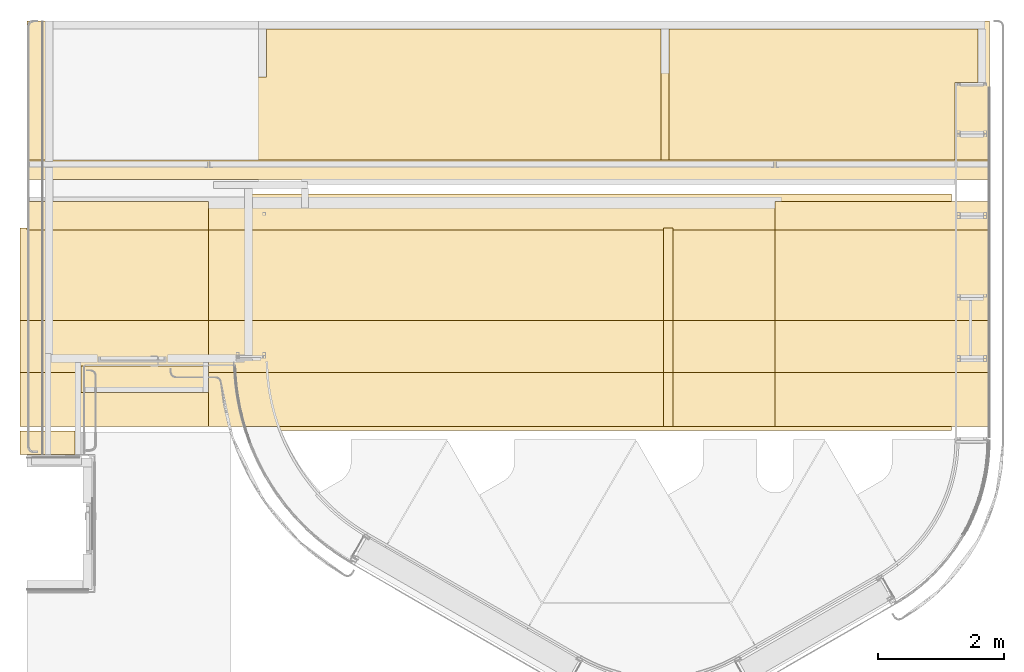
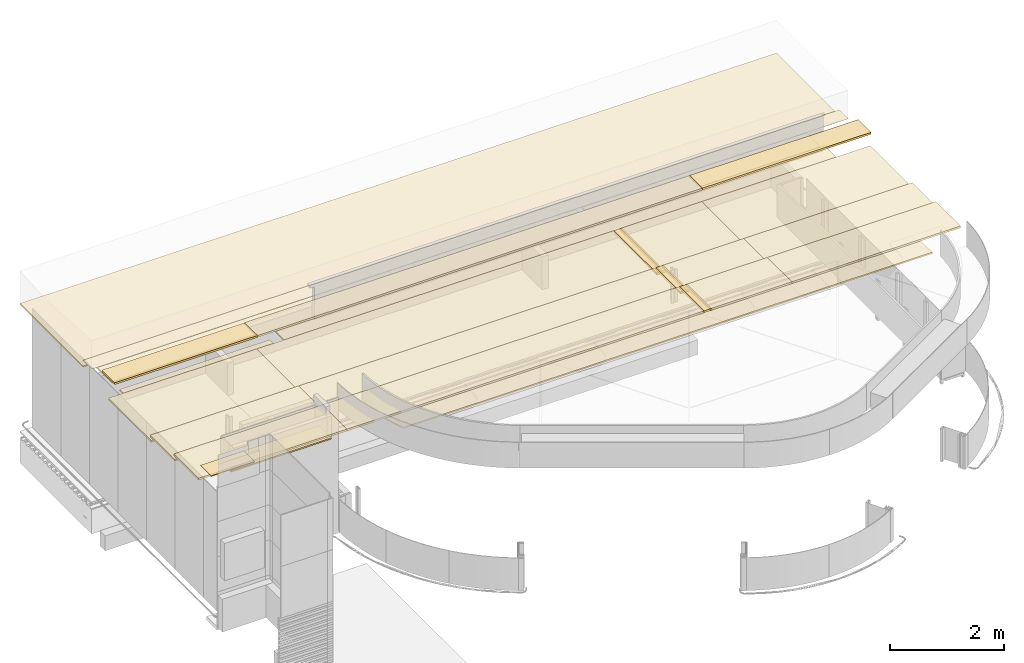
# One storey, part 16 of 18: 22 coverings.
"""IFC2X3 building model written with IfcOpenShell, lengths in millimetres."""

from ifc_helpers import new_model, entity, si_unit, converted_unit, derived_unit, direction, frame, frame_2d, origin_with_axes, place, context, subcontext, project, spatial, polyline, circle_curve, parameter, trimmed, segment, composite_curve, rectangle, outline, extrude, faceted_brep, material, layer, layer_set, layer_usage, type_object, element, save


model = new_model("IFC2X3")

# Units and contexts
model_context = context("Model", 3, precision=0.01, world=frame((0.0, 4.29681676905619e-09, 0.0)), true_north=direction((4.01073788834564e-13, 1.0)))
plan_context = context("Plan", 3, precision=0.01, world=frame((0.0, 4.29681676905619e-09, 0.0)), true_north=direction((4.01073788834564e-13, 1.0)))
body_context = subcontext(model_context, "Body", "Model", "MODEL_VIEW")
ifc_project = project(units=[converted_unit("PLANEANGLEUNIT", "DEGREE", entity("IfcPositiveLengthMeasure", 0.0174532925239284), si_unit("PLANEANGLEUNIT", "RADIAN"), dimensions=[0, 0, 0, 0, 0, 0, 0]), si_unit("AREAUNIT", "SQUARE_METRE"), si_unit("LENGTHUNIT", "METRE", prefix="MILLI"), si_unit("MASSUNIT", "GRAM", prefix="KILO"), si_unit("POWERUNIT", "WATT"), si_unit("PRESSUREUNIT", "PASCAL"), si_unit("FORCEUNIT", "NEWTON", prefix="KILO"), si_unit("ELECTRICVOLTAGEUNIT", "VOLT"), si_unit("ELECTRICCURRENTUNIT", "AMPERE"), si_unit("THERMODYNAMICTEMPERATUREUNIT", "DEGREE_CELSIUS"), si_unit("TIMEUNIT", "SECOND"), si_unit("VOLUMEUNIT", "CUBIC_METRE"), derived_unit("LINEARVELOCITYUNIT", [(si_unit("LENGTHUNIT", "METRE"), 1), (si_unit("TIMEUNIT", "SECOND"), -1)]), derived_unit("VOLUMETRICFLOWRATEUNIT", [(si_unit("VOLUMEUNIT", "CUBIC_METRE"), 1), (si_unit("TIMEUNIT", "SECOND"), -1)]), derived_unit("THERMALTRANSMITTANCEUNIT", [(si_unit("POWERUNIT", "WATT"), 1), (si_unit("THERMODYNAMICTEMPERATUREUNIT", "KELVIN"), -1), (si_unit("AREAUNIT", "SQUARE_METRE"), -1)]), derived_unit("SOUNDPRESSUREUNIT", [(si_unit("PRESSUREUNIT", "PASCAL"), 1)])], contexts=[model_context, plan_context])

# Site, building, storey
site_placement = place(None, origin_with_axes())
site = spatial("IfcSite", under=ifc_project, at=site_placement, Name="ENGM", CompositionType="ELEMENT")
building_placement = place(site_placement, origin_with_axes())
building = spatial("IfcBuilding", under=site, at=building_placement, Name="TH", CompositionType="ELEMENT")
storey_placement = place(building_placement, frame((0.0, 0.0, 210200.0), z_axis=(0.0, 0.0, 1.0), x_axis=(1.0, 0.0, 0.0)))
storey = spatial("IfcBuildingStorey", under=building, at=storey_placement, Name="Nivå F - 0,7 m", CompositionType="ELEMENT", Elevation=210200.0)

# Coverings
ifc_material_1 = material(Name="_NSW Himlingsplate 600x600 mm")
ifc_layer_1 = layer(ifc_material_1, 30.0)
ifc_layer_set_1 = layer_set([ifc_layer_1], Name="Compound Ceiling:A255 - HI-F02")
ifc_layer_usage_1 = layer_usage(ifc_layer_set_1, "AXIS3", "NEGATIVE", 30.0)
covering_type_1 = type_object("IfcCoveringType", Name="Compound Ceiling:A255 - HI-F02", PredefinedType="CEILING")
covering_1_placement = place(storey_placement, origin_with_axes())
element("IfcCovering", 1, at=covering_1_placement, inside=storey, type_object=covering_type_1, material=ifc_layer_usage_1, Name="Compound Ceiling:A255 - HI-F02", ObjectType="Compound Ceiling:A255 - HI-F02", PredefinedType="CEILING", context=body_context, shape_type="SweptSolid", body=[
    extrude(outline(composite_curve([segment(polyline([(-3365.29852497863, -1655.80938144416), (7326.0776646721, -1655.80938144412)]), True, "CONTINUOUS"), segment(polyline([(7326.0776646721, -1655.80938144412), (7326.0776646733, 2108.68624355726)]), True, "CONTINUOUS"), segment(polyline([(7326.0776646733, 2108.68624355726), (-3840.28079932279, 2108.68624355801)]), True, "CONTINUOUS"), segment(polyline([(-3840.28079932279, 2108.68624355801), (-3840.2807993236, -452.876862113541)]), True, "CONTINUOUS"), segment(polyline([(-3840.2807993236, -452.876862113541), (-3606.29520572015, -452.876862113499)]), True, "CONTINUOUS"), segment(trimmed(circle_curve(frame_2d((-427.040533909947, -441.548878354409), x_axis=(1.0, 0.0)), 3179.27485308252), [parameter(180.204149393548)], [parameter(202.453283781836)], True, "PARAMETER"), True, "CONTINUOUS")], self_intersect=False)), frame((902475.9421104, 482502.171194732, 2600.0)), (0.0, 0.0, 1.0), 29.9999999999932),
])
ifc_layer_usage_2 = layer_usage(ifc_layer_set_1, "AXIS3", "NEGATIVE", 30.0)
covering_2_placement = place(storey_placement, origin_with_axes())
element("IfcCovering", 2, at=covering_2_placement, inside=storey, type_object=covering_type_1, material=ifc_layer_usage_2, Name="Compound Ceiling:A255 - HI-F02", ObjectType="Compound Ceiling:A255 - HI-F02", PredefinedType="CEILING", context=body_context, shape_type="SweptSolid", body=[
    extrude(outline(polyline([(-5586.00113129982, -787.585797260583), (688.583710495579, -787.585797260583), (688.583710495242, -25.2367488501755), (813.5837104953, -25.2367488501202), (813.583710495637, -787.585797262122), (4083.83371031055, -787.585797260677), (4083.8337103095, 1600.40834337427), (-5586.00113130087, 1600.40834336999), (-5586.00113129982, -787.585797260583)])), frame((899605.083710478, 486445.064202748, 2400.0), z_axis=(0.0, 0.0, 1.0), x_axis=(-1.0, 0.0, 0.0)), (0.0, 0.0, 1.0), 29.9999999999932),
    extrude(rectangle(XDim=2525.79864750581, YDim=3045.89153581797, at=frame_2d((-2.07933226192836e-10, 0.0), x_axis=(1.0, 0.0))), frame((897044.195768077, 483321.600676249, 2400.0), z_axis=(0.0, 0.0, 1.0), x_axis=(0.0, 1.0, 0.0)), (0.0, 0.0, 1.0), 29.9999999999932),
])
ifc_layer_usage_3 = layer_usage(ifc_layer_set_1, "AXIS3", "NEGATIVE", 30.0)
covering_3_placement = place(storey_placement, origin_with_axes())
element("IfcCovering", 3, at=covering_3_placement, inside=storey, type_object=covering_type_1, material=ifc_layer_usage_3, Name="Compound Ceiling:A255 - HI-F02", ObjectType="Compound Ceiling:A255 - HI-F02", PredefinedType="CEILING", context=body_context, shape_type="SweptSolid", body=[
    extrude(outline(polyline([(-1761.19494726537, -1080.21034498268), (3151.80505273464, -1080.21034498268), (3151.80505273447, 1307.78379564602), (-1390.61010546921, 1307.7837956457), (-1390.6101054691, -227.57345066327), (-1761.19494726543, -227.573450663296), (-1761.19494726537, -1080.21034498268)])), frame((908467.889894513, 486152.439655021, 2400.0), z_axis=(0.0, 0.0, 1.0), x_axis=(-1.0, 0.0, 0.0)), (0.0, 0.0, 1.0), 29.9999999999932),
])
ifc_layer_2 = layer(ifc_material_1, 30.0)
ifc_layer_set_2 = layer_set([ifc_layer_2], Name="Compound Ceiling:A255 - eksisterende himling perfo. metall kassetter 600x600")
ifc_layer_usage_4 = layer_usage(ifc_layer_set_2, "AXIS3", "NEGATIVE", 30.0)
covering_type_2 = type_object("IfcCoveringType", Name="Compound Ceiling:A255 - eksisterende himling perfo. metall kassetter 600x600", PredefinedType="CEILING")
covering_4_placement = place(storey_placement, origin_with_axes())
element("IfcCovering", 4, at=covering_4_placement, inside=storey, type_object=covering_type_2, material=ifc_layer_usage_4, Name="Compound Ceiling:A255 - eksisterende himling perfo. metall kassetter 600x600", ObjectType="Compound Ceiling:A255 - eksisterende himling perfo. metall kassetter 600x600", PredefinedType="CEILING", context=body_context, shape_type="SweptSolid", body=[
    extrude(rectangle(XDim=427.696977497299, YDim=2028.74999983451, at=frame_2d((-3.46460637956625e-11, 0.0), x_axis=(1.0, 0.0))), frame((896985.625000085, 481663.852863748, 2400.0), z_axis=(0.0, 0.0, 1.0), x_axis=(0.0, -1.0, 0.0)), (0.0, 0.0, 1.0), 29.9999999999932),
])
ifc_material_2 = material(Name="T2_Gips Standard")
ifc_layer_3 = layer(ifc_material_2, 12.5)
ifc_layer_set_3 = layer_set([ifc_layer_3], Name="Compound Ceiling:A255 - Eksisterende - Gips - 12.5 mm")
ifc_layer_usage_5 = layer_usage(ifc_layer_set_3, "AXIS3", "NEGATIVE", 12.5)
covering_type_3 = type_object("IfcCoveringType", Name="Compound Ceiling:A255 - Eksisterende - Gips - 12.5 mm", PredefinedType="CEILING")
covering_5_placement = place(storey_placement, origin_with_axes())
element("IfcCovering", 5, at=covering_5_placement, inside=storey, type_object=covering_type_3, material=ifc_layer_usage_5, Name="Compound Ceiling:A255 - Eksisterende - Gips - 12.5 mm", ObjectType="Compound Ceiling:A255 - Eksisterende - Gips - 12.5 mm", PredefinedType="CEILING", context=body_context, shape_type="SweptSolid", body=[
    extrude(rectangle(XDim=376.000469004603, YDim=876.312500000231, at=frame_2d((3.46460637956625e-11, 1.3858425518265e-10), x_axis=(1.0, 0.0))), frame((895439.156250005, 480652.999765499, 3250.0), z_axis=(0.0, 0.0, 1.0), x_axis=(0.0, -1.0, 0.0)), (0.0, 0.0, 1.0), 12.5000000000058),
])
ifc_material_3 = material(Name="_NSW Himlingsplate 600mm")
ifc_layer_4 = layer(ifc_material_3, 40.0)
ifc_layer_set_4 = layer_set([ifc_layer_4], Name="Compound Ceiling:A255 - eksisterende himling perfo. metall kassetter 600mm pir-nivåF")
ifc_layer_usage_6 = layer_usage(ifc_layer_set_4, "AXIS3", "NEGATIVE", 40.0)
covering_type_4 = type_object("IfcCoveringType", Name="Compound Ceiling:A255 - eksisterende himling perfo. metall kassetter 600mm pir-nivåF", PredefinedType="CEILING")
covering_6_placement = place(storey_placement, origin_with_axes())
element("IfcCovering", 6, at=covering_6_placement, inside=storey, type_object=covering_type_4, material=ifc_layer_usage_6, Name="Compound Ceiling:A255 - eksisterende himling perfo. metall kassetter 600mm pir-nivåF", ObjectType="Compound Ceiling:A255 - eksisterende himling perfo. metall kassetter 600mm pir-nivåF", PredefinedType="CEILING", context=body_context, shape_type="SweptSolid", body=[
    extrude(rectangle(XDim=2999.99999999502, YDim=1500.00000000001, at=frame_2d((-6.93489710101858e-11, 0.0), x_axis=(1.0, 0.0))), frame((896500.000000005, 483319.999999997, 2700.0)), (0.0, 0.0, 1.0), 39.9999999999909),
])
ifc_layer_usage_7 = layer_usage(ifc_layer_set_4, "AXIS3", "NEGATIVE", 40.0)
covering_7_placement = place(storey_placement, origin_with_axes())
element("IfcCovering", 7, at=covering_7_placement, inside=storey, type_object=covering_type_4, material=ifc_layer_usage_7, Name="Compound Ceiling:A255 - eksisterende himling perfo. metall kassetter 600mm pir-nivåF", ObjectType="Compound Ceiling:A255 - eksisterende himling perfo. metall kassetter 600mm pir-nivåF", PredefinedType="CEILING", context=body_context, shape_type="SweptSolid", body=[
    extrude(rectangle(XDim=2999.99999999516, YDim=860.000000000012, at=frame_2d((-6.93489710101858e-11, 0.0), x_axis=(1.0, 0.0))), frame((896500.000000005, 482169.999999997, 2800.0)), (0.0, 0.0, 1.0), 39.9999999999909),
])
ifc_layer_usage_8 = layer_usage(ifc_layer_set_4, "AXIS3", "NEGATIVE", 40.0)
covering_8_placement = place(storey_placement, origin_with_axes())
element("IfcCovering", 8, at=covering_8_placement, inside=storey, type_object=covering_type_4, material=ifc_layer_usage_8, Name="Compound Ceiling:A255 - eksisterende himling perfo. metall kassetter 600mm pir-nivåF", ObjectType="Compound Ceiling:A255 - eksisterende himling perfo. metall kassetter 600mm pir-nivåF", PredefinedType="CEILING", context=body_context, shape_type="SweptSolid", body=[
    extrude(rectangle(XDim=2999.99999999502, YDim=860.000000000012, at=frame_2d((-1.3858425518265e-10, 6.93205493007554e-11), x_axis=(1.0, 0.0))), frame((896500.000000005, 481339.999999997, 2900.0)), (0.0, 0.0, 1.0), 39.9999999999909),
])
ifc_layer_usage_9 = layer_usage(ifc_layer_set_4, "AXIS3", "NEGATIVE", 40.0)
covering_9_placement = place(storey_placement, origin_with_axes())
element("IfcCovering", 9, at=covering_9_placement, inside=storey, type_object=covering_type_4, material=ifc_layer_usage_9, Name="Compound Ceiling:A255 - eksisterende himling perfo. metall kassetter 600mm pir-nivåF", ObjectType="Compound Ceiling:A255 - eksisterende himling perfo. metall kassetter 600mm pir-nivåF", PredefinedType="CEILING", context=body_context, shape_type="SweptSolid", body=[
    extrude(rectangle(XDim=7224.9999999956, YDim=1500.00000000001, at=frame_2d((-1.38697942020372e-10, 0.0), x_axis=(1.0, 0.0))), frame((901612.500000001, 483320.000000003, 2700.0), z_axis=(0.0, 0.0, 1.0), x_axis=(-1.0, 0.0, 0.0)), (0.0, 0.0, 1.0), 39.9999999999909),
    extrude(rectangle(XDim=1650.39444423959, YDim=1500.00000000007, at=frame_2d((-1.3858425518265e-10, 0.0), x_axis=(1.0, 0.0))), frame((906174.802777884, 483320.000000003, 2700.0)), (0.0, 0.0, 1.0), 39.9999999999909),
])
ifc_layer_usage_10 = layer_usage(ifc_layer_set_4, "AXIS3", "NEGATIVE", 40.0)
covering_10_placement = place(storey_placement, origin_with_axes())
element("IfcCovering", 10, at=covering_10_placement, inside=storey, type_object=covering_type_4, material=ifc_layer_usage_10, Name="Compound Ceiling:A255 - eksisterende himling perfo. metall kassetter 600mm pir-nivåF", ObjectType="Compound Ceiling:A255 - eksisterende himling perfo. metall kassetter 600mm pir-nivåF", PredefinedType="CEILING", context=body_context, shape_type="SweptSolid", body=[
    extrude(rectangle(XDim=7224.99999999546, YDim=860.000000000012, at=frame_2d((6.93489710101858e-11, 0.0), x_axis=(1.0, 0.0))), frame((901612.500000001, 482170.000000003, 2800.0), z_axis=(0.0, 0.0, 1.0), x_axis=(-1.0, 0.0, 0.0)), (0.0, 0.0, 1.0), 39.9999999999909),
    extrude(rectangle(XDim=1650.39444423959, YDim=860.000000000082, at=frame_2d((-1.3858425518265e-10, 0.0), x_axis=(1.0, 0.0))), frame((906174.802777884, 482170.000000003, 2800.0)), (0.0, 0.0, 1.0), 39.9999999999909),
])
ifc_layer_usage_11 = layer_usage(ifc_layer_set_4, "AXIS3", "NEGATIVE", 40.0)
covering_11_placement = place(storey_placement, origin_with_axes())
element("IfcCovering", 11, at=covering_11_placement, inside=storey, type_object=covering_type_4, material=ifc_layer_usage_11, Name="Compound Ceiling:A255 - eksisterende himling perfo. metall kassetter 600mm pir-nivåF", ObjectType="Compound Ceiling:A255 - eksisterende himling perfo. metall kassetter 600mm pir-nivåF", PredefinedType="CEILING", context=body_context, shape_type="SweptSolid", body=[
    extrude(rectangle(XDim=7224.99999999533, YDim=860.000000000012, at=frame_2d((1.38470568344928e-10, 0.0), x_axis=(1.0, 0.0))), frame((901612.500000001, 481340.000000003, 2900.0), z_axis=(0.0, 0.0, 1.0), x_axis=(-1.0, 0.0, 0.0)), (0.0, 0.0, 1.0), 39.9999999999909),
    extrude(rectangle(XDim=1650.39444423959, YDim=860.000000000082, at=frame_2d((0.0, -6.9292127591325e-11), x_axis=(1.0, 0.0))), frame((906174.802777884, 481340.000000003, 2900.0)), (0.0, 0.0, 1.0), 39.9999999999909),
])
ifc_layer_usage_12 = layer_usage(ifc_layer_set_4, "AXIS3", "NEGATIVE", 40.0)
covering_12_placement = place(storey_placement, origin_with_axes())
element("IfcCovering", 12, at=covering_12_placement, inside=storey, type_object=covering_type_4, material=ifc_layer_usage_12, Name="Compound Ceiling:A255 - eksisterende himling perfo. metall kassetter 600mm pir-nivåF", ObjectType="Compound Ceiling:A255 - eksisterende himling perfo. metall kassetter 600mm pir-nivåF", PredefinedType="CEILING", context=body_context, shape_type="SweptSolid", body=[
    extrude(rectangle(XDim=8999.99999999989, YDim=450.000000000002, at=frame_2d((6.9576344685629e-11, 3.46460637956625e-11), x_axis=(1.0, 0.0))), frame((902500.000000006, 484264.999999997, 3005.0)), (0.0, 0.0, 1.0), 39.9999999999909),
])
ifc_layer_usage_13 = layer_usage(ifc_layer_set_4, "AXIS3", "NEGATIVE", 40.0)
covering_13_placement = place(storey_placement, origin_with_axes())
element("IfcCovering", 13, at=covering_13_placement, inside=storey, type_object=covering_type_4, material=ifc_layer_usage_13, Name="Compound Ceiling:A255 - eksisterende himling perfo. metall kassetter 600mm pir-nivåF", ObjectType="Compound Ceiling:A255 - eksisterende himling perfo. metall kassetter 600mm pir-nivåF", PredefinedType="CEILING", context=body_context, shape_type="SweptSolid", body=[
    extrude(rectangle(XDim=154.999999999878, YDim=1500.00000000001, at=frame_2d((6.93063384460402e-11, 6.93489710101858e-11), x_axis=(1.0, 0.0))), frame((905302.499999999, 483320.000000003, 2700.0)), (0.0, 0.0, 1.0), 39.9999999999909),
])
ifc_layer_usage_14 = layer_usage(ifc_layer_set_4, "AXIS3", "NEGATIVE", 40.0)
covering_14_placement = place(storey_placement, origin_with_axes())
element("IfcCovering", 14, at=covering_14_placement, inside=storey, type_object=covering_type_4, material=ifc_layer_usage_14, Name="Compound Ceiling:A255 - eksisterende himling perfo. metall kassetter 600mm pir-nivåF", ObjectType="Compound Ceiling:A255 - eksisterende himling perfo. metall kassetter 600mm pir-nivåF", PredefinedType="CEILING", context=body_context, shape_type="SweptSolid", body=[
    extrude(rectangle(XDim=154.99999999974, YDim=860.000000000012, at=frame_2d((0.0, 6.93205493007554e-11), x_axis=(1.0, 0.0))), frame((905302.499999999, 482170.000000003, 2800.0)), (0.0, 0.0, 1.0), 39.9999999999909),
])
ifc_layer_usage_15 = layer_usage(ifc_layer_set_4, "AXIS3", "NEGATIVE", 40.0)
covering_15_placement = place(storey_placement, origin_with_axes())
element("IfcCovering", 15, at=covering_15_placement, inside=storey, type_object=covering_type_4, material=ifc_layer_usage_15, Name="Compound Ceiling:A255 - eksisterende himling perfo. metall kassetter 600mm pir-nivåF", ObjectType="Compound Ceiling:A255 - eksisterende himling perfo. metall kassetter 600mm pir-nivåF", PredefinedType="CEILING", context=body_context, shape_type="SweptSolid", body=[
    extrude(rectangle(XDim=155.000000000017, YDim=860.000000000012, at=frame_2d((-1.3861267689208e-10, 0.0), x_axis=(1.0, 0.0))), frame((905302.499999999, 481340.000000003, 2900.0)), (0.0, 0.0, 1.0), 39.9999999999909),
])
covering_16_placement = place(storey_placement, origin_with_axes())
element("IfcCovering", 16, at=covering_16_placement, inside=storey, type_object=covering_type_4, Name="Compound Ceiling:A255 - eksisterende himling perfo. metall kassetter 600mm pir-nivåF", ObjectType="Compound Ceiling:A255 - eksisterende himling perfo. metall kassetter 600mm pir-nivåF", PredefinedType="CEILING", context=body_context, shape_type="Brep", body=[
    faceted_brep([(895111.906168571, 484039.999999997, 3005.0), (895111.906168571, 484039.999999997, 3044.99999999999), (898000.000000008, 484039.999999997, 3044.99999999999), (898000.000000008, 484039.999999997, 3005.0), (898000.000000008, 484489.999999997, 3044.99999999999), (898000.000000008, 484489.999999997, 3005.0), (895111.906168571, 484489.999999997, 3044.99999999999), (895111.906168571, 484489.999999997, 3005.0)], [[[0, 1, 2, 3]], [[3, 2, 4, 5]], [[6, 7, 5, 4]], [[7, 0, 3, 5]], [[1, 6, 4, 2]], [[7, 6, 1, 0]]], orient=[[False], [False], [False], [False], [False], [False]]),
])
covering_17_placement = place(storey_placement, origin_with_axes())
element("IfcCovering", 17, at=covering_17_placement, inside=storey, type_object=covering_type_4, Name="Compound Ceiling:A255 - eksisterende himling perfo. metall kassetter 600mm pir-nivåF", ObjectType="Compound Ceiling:A255 - eksisterende himling perfo. metall kassetter 600mm pir-nivåF", PredefinedType="CEILING", context=body_context, shape_type="Brep", body=[
    faceted_brep([(907000.000000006, 484489.999999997, 3005.0), (907000.000000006, 484489.999999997, 3044.99999999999), (907000.000000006, 484039.999999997, 3044.99999999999), (907000.000000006, 484039.999999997, 3005.0), (910410.5848418, 484039.999999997, 3044.99999999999), (910410.5848418, 484039.999999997, 3005.0), (910410.5848418, 484489.999999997, 3005.0), (910410.5848418, 484489.999999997, 3044.99999999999)], [[[0, 1, 2, 3]], [[4, 5, 3, 2]], [[6, 7, 1, 0]], [[5, 6, 0, 3]], [[7, 4, 2, 1]], [[7, 6, 5, 4]]], orient=[[False], [False], [False], [False], [False], [False]]),
])
covering_18_placement = place(storey_placement, origin_with_axes())
element("IfcCovering", 18, at=covering_18_placement, inside=storey, type_object=covering_type_4, Name="Compound Ceiling:A255 - eksisterende himling perfo. metall kassetter 600mm pir-nivåF", ObjectType="Compound Ceiling:A255 - eksisterende himling perfo. metall kassetter 600mm pir-nivåF", PredefinedType="CEILING", context=body_context, shape_type="Brep", body=[
    faceted_brep([(910410.5848418, 484070.000000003, 2700.0), (910410.5848418, 484070.000000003, 2739.99999999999), (907000.000000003, 484070.000000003, 2739.99999999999), (907000.000000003, 484070.000000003, 2700.0), (907000.000000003, 482570.000000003, 2739.99999999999), (907000.000000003, 482570.000000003, 2700.0), (910410.5848418, 482570.000000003, 2739.99999999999), (910410.5848418, 482570.000000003, 2700.0)], [[[0, 1, 2, 3]], [[3, 2, 4, 5]], [[6, 7, 5, 4]], [[7, 0, 3, 5]], [[1, 6, 4, 2]], [[7, 6, 1, 0]]], orient=[[False], [False], [False], [False], [False], [False]]),
])
covering_19_placement = place(storey_placement, origin_with_axes())
element("IfcCovering", 19, at=covering_19_placement, inside=storey, type_object=covering_type_4, Name="Compound Ceiling:A255 - eksisterende himling perfo. metall kassetter 600mm pir-nivåF", ObjectType="Compound Ceiling:A255 - eksisterende himling perfo. metall kassetter 600mm pir-nivåF", PredefinedType="CEILING", context=body_context, shape_type="Brep", body=[
    faceted_brep([(910410.5848418, 482600.000000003, 2800.0), (910410.5848418, 482600.000000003, 2839.99999999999), (907000.000000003, 482600.000000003, 2839.99999999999), (907000.000000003, 482600.000000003, 2800.0), (907000.000000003, 481740.000000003, 2839.99999999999), (907000.000000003, 481740.000000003, 2800.0), (910410.5848418, 481740.000000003, 2839.99999999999), (910410.5848418, 481740.000000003, 2800.0)], [[[0, 1, 2, 3]], [[3, 2, 4, 5]], [[6, 7, 5, 4]], [[7, 0, 3, 5]], [[1, 6, 4, 2]], [[7, 6, 1, 0]]], orient=[[False], [False], [False], [False], [False], [False]]),
])
covering_20_placement = place(storey_placement, origin_with_axes())
element("IfcCovering", 20, at=covering_20_placement, inside=storey, type_object=covering_type_4, Name="Compound Ceiling:A255 - eksisterende himling perfo. metall kassetter 600mm pir-nivåF", ObjectType="Compound Ceiling:A255 - eksisterende himling perfo. metall kassetter 600mm pir-nivåF", PredefinedType="CEILING", context=body_context, shape_type="Brep", body=[
    faceted_brep([(910410.5848418, 481770.000000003, 2900.0), (910410.5848418, 481770.000000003, 2939.99999999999), (907000.000000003, 481770.000000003, 2939.99999999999), (907000.000000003, 481770.000000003, 2900.0), (907000.000000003, 480910.000000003, 2939.99999999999), (907000.000000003, 480910.000000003, 2900.0), (910410.5848418, 480910.000000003, 2939.99999999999), (910410.5848418, 480910.000000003, 2900.0)], [[[0, 1, 2, 3]], [[3, 2, 4, 5]], [[6, 7, 5, 4]], [[7, 0, 3, 5]], [[1, 6, 4, 2]], [[7, 6, 1, 0]]], orient=[[False], [False], [False], [False], [False], [False]]),
])
covering_type_5 = type_object("IfcCoveringType", Name="Compound Ceiling:A255 - Himling perfo. metall kassetter - 1800x600mm", PredefinedType="CEILING")
covering_21_placement = place(storey_placement, origin_with_axes())
element("IfcCovering", 21, at=covering_21_placement, inside=storey, type_object=covering_type_5, Name="Compound Ceiling:A255 - Himling perfo. metall kassetter - 1800x600mm", ObjectType="Compound Ceiling:A255 - Himling perfo. metall kassetter - 1800x600mm", PredefinedType="CEILING", context=body_context, shape_type="Brep", body=[
    faceted_brep([(895111.906168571, 485150.036499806, 2700.0), (895111.906168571, 485150.036499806, 2729.99999999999), (910410.5848418, 485150.036499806, 2729.99999999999), (910410.5848418, 485150.036499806, 2700.0), (910410.5848418, 487357.650000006, 2700.0), (895111.906168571, 487357.650000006, 2700.0), (895111.906168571, 487357.650000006, 2729.99999999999), (910410.5848418, 487357.650000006, 2729.99999999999)], [[[0, 1, 2, 3]], [[3, 4, 5, 0]], [[1, 6, 7, 2]], [[4, 3, 2, 7]], [[7, 6, 5, 4]], [[6, 1, 0, 5]]], orient=[[False], [False], [False], [False], [False], [False]]),
])
covering_type_6 = type_object("IfcCoveringType", Name="Compound Ceiling:A255 - Metall beslag - 2mm", PredefinedType="CEILING")
covering_22_placement = place(storey_placement, origin_with_axes())
element("IfcCovering", 22, at=covering_22_placement, inside=storey, type_object=covering_type_6, Name="Compound Ceiling:A255 - Metall beslag - 2mm", ObjectType="Compound Ceiling:A255 - Metall beslag - 2mm", PredefinedType="CEILING", context=body_context, shape_type="Brep", body=[
    faceted_brep([(910410.5848418, 485152.499999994, 2850.0), (910410.5848418, 485152.499999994, 2852.0), (895111.906168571, 485152.499999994, 2852.0), (895111.906168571, 485152.499999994, 2850.0), (895111.906168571, 484836.999999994, 2850.0), (895111.906168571, 484836.999999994, 2852.0), (910410.5848418, 484836.999999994, 2852.0), (910410.5848418, 484836.999999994, 2850.0)], [[[0, 1, 2, 3]], [[4, 5, 6, 7]], [[7, 0, 3, 4]], [[5, 2, 1, 6]], [[7, 6, 1, 0]], [[5, 4, 3, 2]]], orient=[[False], [False], [False], [False], [False], [False]]),
])

save(model, "model.ifc")
